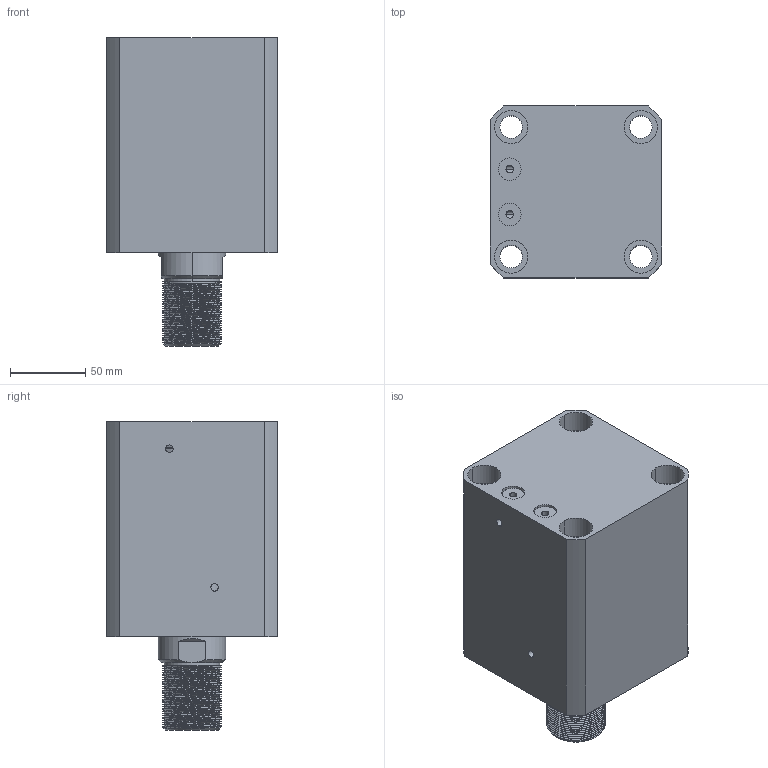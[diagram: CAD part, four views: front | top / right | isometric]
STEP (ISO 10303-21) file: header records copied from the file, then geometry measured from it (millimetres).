
FILE_DESCRIPTION (( 'STEP AP214' ), '1' );
FILE_NAME ('chtb-sdmb80x65w_asm.STEP', '2018-05-26T02:14:44', ( 'Windows' ), ( 'Microsoft' ), 'SwSTEP 2.0', 'SolidWorks 2015', '' );
FILE_SCHEMA (( 'AUTOMOTIVE_DESIGN' ));
Length unit declared in the file: millimetre
Products named in the file (4): CHTB-SDMB80X65NBT; CHTB-SD80X65WHSG; CHTB-SD80QG; chtb-sdmb80x65w_asm
Assembly tree (3 placements, depth 2):
  chtb-sdmb80x65w_asm
    CHTB-SD80QG
    CHTB-SD80X65WHSG
    CHTB-SDMB80X65NBT
Bounding box: 114 x 114 x 205 mm (x, y, z)
Volume: 1545333.3 mm3; surface area: 223422.5 mm2
Topology: 3 solids, 3 shells, 251 faces, 695 edges, 466 vertices
Faces by surface type: cylinder 163, plane 38, torus 18, bspline 16, cone 16
Entity records: 20297 total; most frequent: CARTESIAN_POINT 14321, ORIENTED_EDGE 1382, DIRECTION 1068, EDGE_CURVE 691, VERTEX_POINT 466, AXIS2_PLACEMENT_3D 433, EDGE_LOOP 289, ADVANCED_FACE 251
